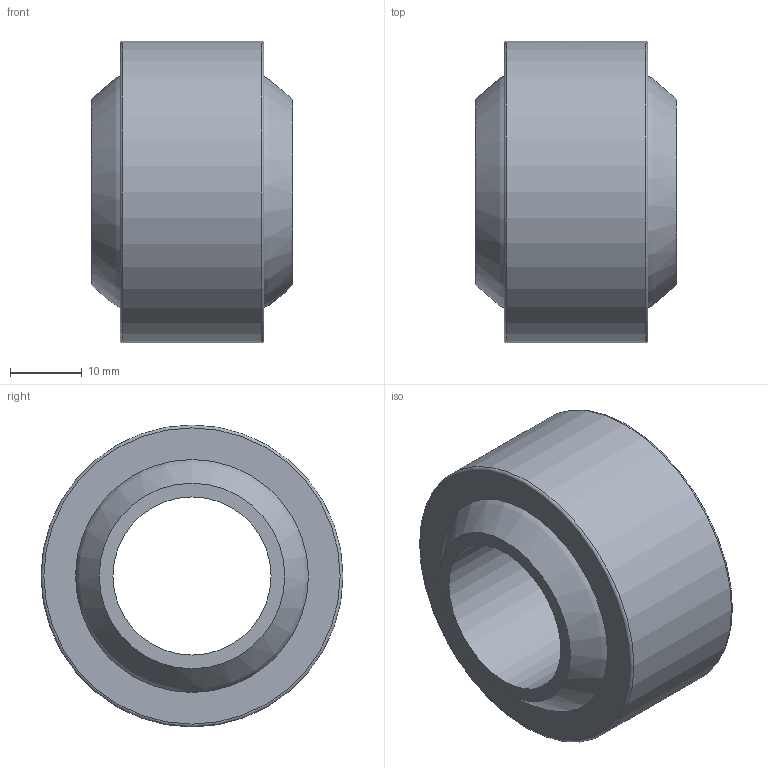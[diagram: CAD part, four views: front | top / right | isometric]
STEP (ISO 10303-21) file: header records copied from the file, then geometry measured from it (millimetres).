
FILE_DESCRIPTION( ( 'STEP AP203' ), '1' );
FILE_NAME( 'C:/Temp/Ganter_Step_05_03_2020/data/3_6/gn_648_8/gn_648_8_n/Ball joint GN 648.8-22-42-N.stp', '2020-03-12T14:14:26', ( 'License CC BY-ND 4.0' ), ( 'CADENAS' ), ' ', 'PARTsolutions', ' ' );
FILE_SCHEMA( ( 'CONFIG_CONTROL_DESIGN' ) );
Length unit declared in the file: millimetre
Products named in the file (3): Ball joint GN 648.8-22-42-N; _Ball joint GN 648.8-22-42-N-2; _Ball joint GN 648.8-22-42-N-1
Assembly tree (2 placements, depth 2):
  Ball joint GN 648.8-22-42-N
    _Ball joint GN 648.8-22-42-N-2
    _Ball joint GN 648.8-22-42-N-1
Bounding box: 28 x 42 x 42 mm (x, y, z)
Volume: 22505.7 mm3; surface area: 11684.4 mm2
Topology: 2 solids, 2 shells, 11 faces, 20 edges, 13 vertices
Faces by surface type: plane 4, cylinder 3, sphere 2, torus 2
Full cylindrical faces by diameter (mm): 2.4 x1, 22 x1, 42 x1
Entity records: 384 total; most frequent: CARTESIAN_POINT 71, DIRECTION 50, AXIS2_PLACEMENT_3D 25, EDGE_LOOP 24, ORIENTED_EDGE 24, FACE_OUTER_BOUND 18, CC_DESIGN_PERSON_AND_ORGANIZATION_ASSIGNMENT 13, EDGE_CURVE 12
